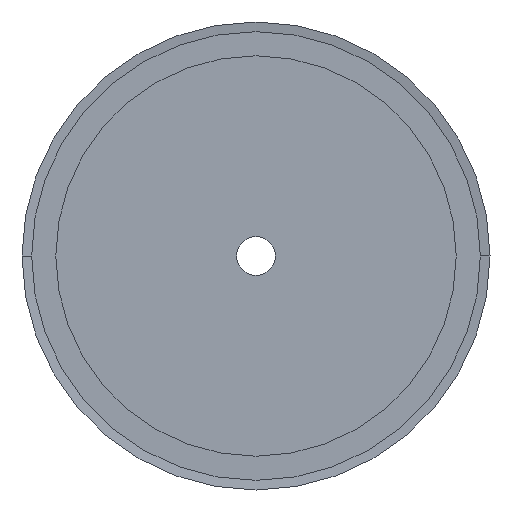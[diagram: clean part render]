
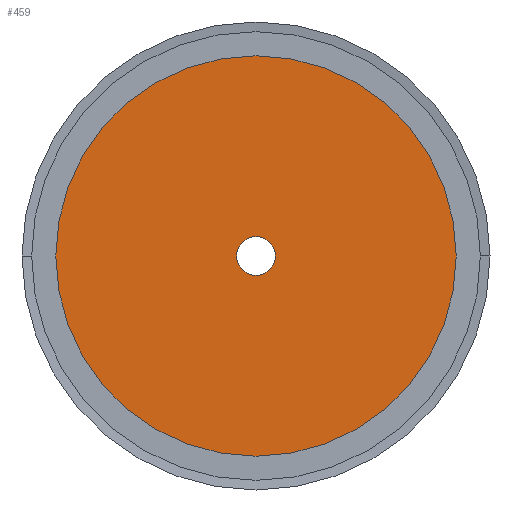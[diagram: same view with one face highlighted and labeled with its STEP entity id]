
A CAD part, left-side view. The second image highlights one B-rep face of the part: STEP entity #459.
In plain terms, the highlighted planar face has unit normal (-1, 0, 0).
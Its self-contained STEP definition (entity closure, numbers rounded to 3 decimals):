
#459 = ADVANCED_FACE( '', ( #1233, #1234 ), #1235, .T. );
#1233 = FACE_BOUND( '', #2008, .T. );
#1234 = FACE_OUTER_BOUND( '', #2009, .T. );
#1235 = PLANE( '', #2010 );
#2008 = EDGE_LOOP( '', ( #5183, #5184 ) );
#2009 = EDGE_LOOP( '', ( #5185, #5186 ) );
#2010 = AXIS2_PLACEMENT_3D( '', #5187, #5188, #5189 );
#5183 = ORIENTED_EDGE( '', *, *, #6196, .F. );
#5184 = ORIENTED_EDGE( '', *, *, #5205, .F. );
#5185 = ORIENTED_EDGE( '', *, *, #5193, .T. );
#5186 = ORIENTED_EDGE( '', *, *, #6201, .T. );
#5187 = CARTESIAN_POINT( '', ( 0., 22.75, 0. ) );
#5188 = DIRECTION( '', ( -1., 0., 0. ) );
#5189 = DIRECTION( '', ( 0., 1., 0. ) );
#5193 = EDGE_CURVE( '', #6203, #6207, #6209, .T. );
#5205 = EDGE_CURVE( '', #6231, #6227, #6233, .T. );
#6196 = EDGE_CURVE( '', #6227, #6231, #7840, .T. );
#6201 = EDGE_CURVE( '', #6207, #6203, #7845, .T. );
#6203 = VERTEX_POINT( '', #7847 );
#6207 = VERTEX_POINT( '', #7852 );
#6209 = CIRCLE( '', #7855, 41.5 );
#6227 = VERTEX_POINT( '', #7877 );
#6231 = VERTEX_POINT( '', #7882 );
#6233 = CIRCLE( '', #7885, 4. );
#7840 = CIRCLE( '', #9924, 4. );
#7845 = CIRCLE( '', #9929, 41.5 );
#7847 = CARTESIAN_POINT( '', ( 0., 41.5, 0. ) );
#7852 = CARTESIAN_POINT( '', ( 0., -41.5, 0. ) );
#7855 = AXIS2_PLACEMENT_3D( '', #9935, #9936, #9937 );
#7877 = CARTESIAN_POINT( '', ( 0., 4., 0. ) );
#7882 = CARTESIAN_POINT( '', ( 0., -4., 0. ) );
#7885 = AXIS2_PLACEMENT_3D( '', #9959, #9960, #9961 );
#9924 = AXIS2_PLACEMENT_3D( '', #12068, #12069, #12070 );
#9929 = AXIS2_PLACEMENT_3D( '', #12083, #12084, #12085 );
#9935 = CARTESIAN_POINT( '', ( 0., 0., 0. ) );
#9936 = DIRECTION( '', ( -1., 0., 0. ) );
#9937 = DIRECTION( '', ( 0., 1., 0. ) );
#9959 = CARTESIAN_POINT( '', ( 0., 0., 0. ) );
#9960 = DIRECTION( '', ( -1., 0., 0. ) );
#9961 = DIRECTION( '', ( 0., 1., 0. ) );
#12068 = CARTESIAN_POINT( '', ( 0., 0., 0. ) );
#12069 = DIRECTION( '', ( -1., 0., 0. ) );
#12070 = DIRECTION( '', ( 0., 1., 0. ) );
#12083 = CARTESIAN_POINT( '', ( 0., 0., 0. ) );
#12084 = DIRECTION( '', ( -1., 0., 0. ) );
#12085 = DIRECTION( '', ( 0., 1., 0. ) );
